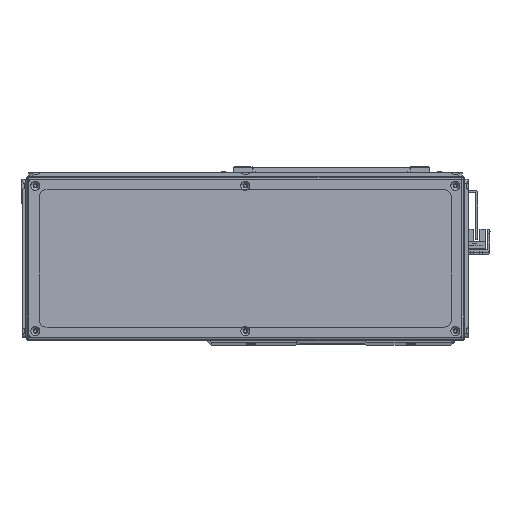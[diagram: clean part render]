
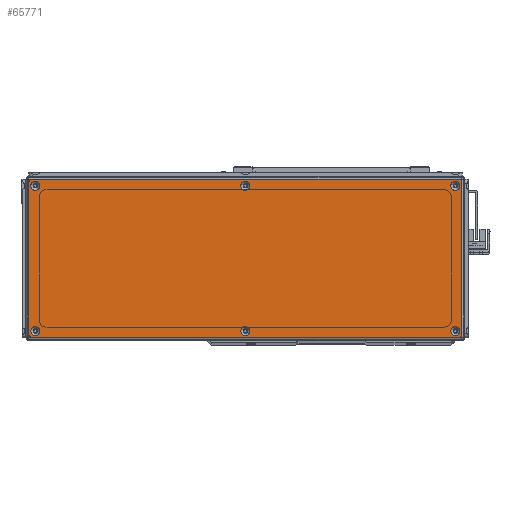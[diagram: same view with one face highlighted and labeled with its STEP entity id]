
A CAD part, top view. The second image highlights one B-rep face of the part: STEP entity #65771.
In plain terms, the highlighted planar face has unit normal (0, 0, 1) as drawn and (0, -1, 0) by its records, which use the part's own axes.
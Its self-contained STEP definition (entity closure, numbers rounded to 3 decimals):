
#1164=FACE_BOUND('',#9794,.T.);
#1165=FACE_BOUND('',#9795,.T.);
#1166=FACE_BOUND('',#9796,.T.);
#1167=FACE_BOUND('',#9797,.T.);
#1168=FACE_BOUND('',#9798,.T.);
#1169=FACE_BOUND('',#9799,.T.);
#1994=PLANE('',#70873);
#5936=FACE_OUTER_BOUND('',#9793,.T.);
#9793=EDGE_LOOP('',(#51609,#51610,#51611,#51612,#51613,#51614,#51615,#51616));
#9794=EDGE_LOOP('',(#51617));
#9795=EDGE_LOOP('',(#51618));
#9796=EDGE_LOOP('',(#51619));
#9797=EDGE_LOOP('',(#51620));
#9798=EDGE_LOOP('',(#51621));
#9799=EDGE_LOOP('',(#51622));
#14259=LINE('',#98822,#22095);
#14260=LINE('',#98826,#22096);
#14261=LINE('',#98830,#22097);
#14262=LINE('',#98833,#22098);
#22095=VECTOR('',#80299,10.);
#22096=VECTOR('',#80302,10.);
#22097=VECTOR('',#80305,10.);
#22098=VECTOR('',#80308,10.);
#29021=CIRCLE('',#70841,3.45);
#29024=CIRCLE('',#70846,3.45);
#29027=CIRCLE('',#70851,3.45);
#29030=CIRCLE('',#70856,3.45);
#29033=CIRCLE('',#70861,3.45);
#29036=CIRCLE('',#70866,3.45);
#29039=CIRCLE('',#70871,3.);
#29041=CIRCLE('',#70874,3.);
#29042=CIRCLE('',#70875,3.);
#29043=CIRCLE('',#70876,3.);
#31533=VERTEX_POINT('',#98752);
#31536=VERTEX_POINT('',#98762);
#31539=VERTEX_POINT('',#98772);
#31542=VERTEX_POINT('',#98782);
#31545=VERTEX_POINT('',#98792);
#31548=VERTEX_POINT('',#98802);
#31551=VERTEX_POINT('',#98812);
#31552=VERTEX_POINT('',#98813);
#31555=VERTEX_POINT('',#98821);
#31556=VERTEX_POINT('',#98823);
#31557=VERTEX_POINT('',#98825);
#31558=VERTEX_POINT('',#98827);
#31559=VERTEX_POINT('',#98829);
#31560=VERTEX_POINT('',#98831);
#38908=EDGE_CURVE('',#31533,#31533,#29021,.T.);
#38913=EDGE_CURVE('',#31536,#31536,#29024,.T.);
#38918=EDGE_CURVE('',#31539,#31539,#29027,.T.);
#38923=EDGE_CURVE('',#31542,#31542,#29030,.T.);
#38928=EDGE_CURVE('',#31545,#31545,#29033,.T.);
#38933=EDGE_CURVE('',#31548,#31548,#29036,.T.);
#38938=EDGE_CURVE('',#31551,#31552,#29039,.T.);
#38942=EDGE_CURVE('',#31551,#31555,#14259,.T.);
#38943=EDGE_CURVE('',#31556,#31555,#29041,.T.);
#38944=EDGE_CURVE('',#31556,#31557,#14260,.T.);
#38945=EDGE_CURVE('',#31558,#31557,#29042,.T.);
#38946=EDGE_CURVE('',#31558,#31559,#14261,.T.);
#38947=EDGE_CURVE('',#31560,#31559,#29043,.T.);
#38948=EDGE_CURVE('',#31560,#31552,#14262,.T.);
#51609=ORIENTED_EDGE('',*,*,#38938,.F.);
#51610=ORIENTED_EDGE('',*,*,#38942,.T.);
#51611=ORIENTED_EDGE('',*,*,#38943,.F.);
#51612=ORIENTED_EDGE('',*,*,#38944,.T.);
#51613=ORIENTED_EDGE('',*,*,#38945,.F.);
#51614=ORIENTED_EDGE('',*,*,#38946,.T.);
#51615=ORIENTED_EDGE('',*,*,#38947,.F.);
#51616=ORIENTED_EDGE('',*,*,#38948,.T.);
#51617=ORIENTED_EDGE('',*,*,#38908,.T.);
#51618=ORIENTED_EDGE('',*,*,#38913,.T.);
#51619=ORIENTED_EDGE('',*,*,#38918,.T.);
#51620=ORIENTED_EDGE('',*,*,#38923,.T.);
#51621=ORIENTED_EDGE('',*,*,#38928,.T.);
#51622=ORIENTED_EDGE('',*,*,#38933,.T.);
#65771=ADVANCED_FACE('',(#5936,#1164,#1165,#1166,#1167,#1168,#1169),#1994,
 .T.);
#70841=AXIS2_PLACEMENT_3D('',#98753,#80219,#80220);
#70846=AXIS2_PLACEMENT_3D('',#98763,#80231,#80232);
#70851=AXIS2_PLACEMENT_3D('',#98773,#80243,#80244);
#70856=AXIS2_PLACEMENT_3D('',#98783,#80255,#80256);
#70861=AXIS2_PLACEMENT_3D('',#98793,#80267,#80268);
#70866=AXIS2_PLACEMENT_3D('',#98803,#80279,#80280);
#70871=AXIS2_PLACEMENT_3D('',#98814,#80291,#80292);
#70873=AXIS2_PLACEMENT_3D('',#98820,#80297,#80298);
#70874=AXIS2_PLACEMENT_3D('',#98824,#80300,#80301);
#70875=AXIS2_PLACEMENT_3D('',#98828,#80303,#80304);
#70876=AXIS2_PLACEMENT_3D('',#98832,#80306,#80307);
#80219=DIRECTION('center_axis',(0.,1.,0.));
#80220=DIRECTION('ref_axis',(1.,0.,0.));
#80231=DIRECTION('center_axis',(0.,1.,0.));
#80232=DIRECTION('ref_axis',(1.,0.,0.));
#80243=DIRECTION('center_axis',(0.,1.,0.));
#80244=DIRECTION('ref_axis',(1.,0.,0.));
#80255=DIRECTION('center_axis',(0.,1.,0.));
#80256=DIRECTION('ref_axis',(1.,0.,0.));
#80267=DIRECTION('center_axis',(0.,1.,0.));
#80268=DIRECTION('ref_axis',(1.,0.,0.));
#80279=DIRECTION('center_axis',(0.,1.,0.));
#80280=DIRECTION('ref_axis',(1.,0.,0.));
#80291=DIRECTION('center_axis',(0.,1.,0.));
#80292=DIRECTION('ref_axis',(-0.707,0.,0.707));
#80297=DIRECTION('center_axis',(0.,-1.,0.));
#80298=DIRECTION('ref_axis',(0.,0.,-1.));
#80299=DIRECTION('',(0.,0.,-1.));
#80300=DIRECTION('center_axis',(0.,1.,0.));
#80301=DIRECTION('ref_axis',(-0.707,0.,-0.707));
#80302=DIRECTION('',(1.,0.,0.));
#80303=DIRECTION('center_axis',(0.,1.,0.));
#80304=DIRECTION('ref_axis',(0.707,0.,-0.707));
#80305=DIRECTION('',(0.,0.,1.));
#80306=DIRECTION('center_axis',(0.,1.,0.));
#80307=DIRECTION('ref_axis',(0.707,0.,0.707));
#80308=DIRECTION('',(-1.,0.,0.));
#98752=CARTESIAN_POINT('',(154.05,-1.5,54.5));
#98753=CARTESIAN_POINT('Origin',(157.5,-1.5,54.5));
#98762=CARTESIAN_POINT('',(-3.45,-1.5,54.5));
#98763=CARTESIAN_POINT('Origin',(0.,-1.5,54.5));
#98772=CARTESIAN_POINT('',(-160.95,-1.5,54.5));
#98773=CARTESIAN_POINT('Origin',(-157.5,-1.5,54.5));
#98782=CARTESIAN_POINT('',(-160.95,-1.5,-54.5));
#98783=CARTESIAN_POINT('Origin',(-157.5,-1.5,-54.5));
#98792=CARTESIAN_POINT('',(-3.45,-1.5,-54.5));
#98793=CARTESIAN_POINT('Origin',(0.,-1.5,-54.5));
#98802=CARTESIAN_POINT('',(154.05,-1.5,-54.5));
#98803=CARTESIAN_POINT('Origin',(157.5,-1.5,-54.5));
#98812=CARTESIAN_POINT('',(-162.5,-1.5,56.5));
#98813=CARTESIAN_POINT('',(-159.5,-1.5,59.5));
#98814=CARTESIAN_POINT('Origin',(-159.5,-1.5,56.5));
#98820=CARTESIAN_POINT('Origin',(0.,-1.5,0.));
#98821=CARTESIAN_POINT('',(-162.5,-1.5,-56.5));
#98822=CARTESIAN_POINT('',(-162.5,-1.5,59.5));
#98823=CARTESIAN_POINT('',(-159.5,-1.5,-59.5));
#98824=CARTESIAN_POINT('Origin',(-159.5,-1.5,-56.5));
#98825=CARTESIAN_POINT('',(159.5,-1.5,-59.5));
#98826=CARTESIAN_POINT('',(-162.5,-1.5,-59.5));
#98827=CARTESIAN_POINT('',(162.5,-1.5,-56.5));
#98828=CARTESIAN_POINT('Origin',(159.5,-1.5,-56.5));
#98829=CARTESIAN_POINT('',(162.5,-1.5,56.5));
#98830=CARTESIAN_POINT('',(162.5,-1.5,-59.5));
#98831=CARTESIAN_POINT('',(159.5,-1.5,59.5));
#98832=CARTESIAN_POINT('Origin',(159.5,-1.5,56.5));
#98833=CARTESIAN_POINT('',(162.5,-1.5,59.5));
